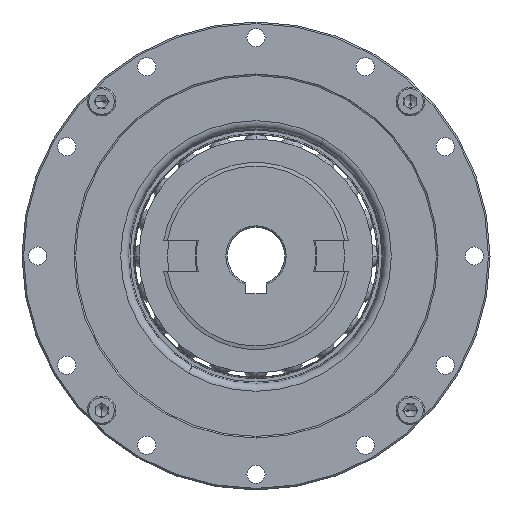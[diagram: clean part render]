
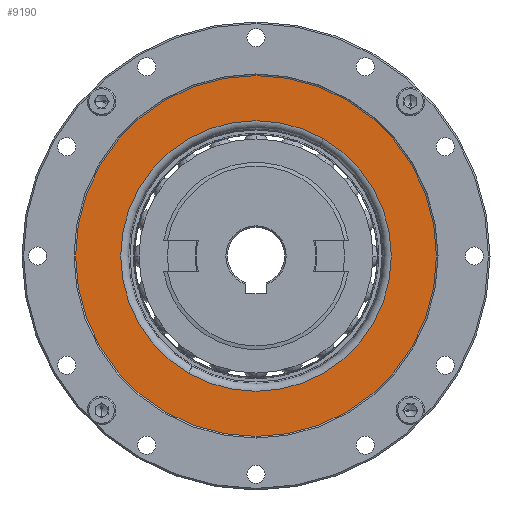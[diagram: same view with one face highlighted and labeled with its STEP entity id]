
A CAD part, front view. The second image highlights one B-rep face of the part: STEP entity #9190.
In plain terms, the highlighted planar face has unit normal (0, -1, 0).
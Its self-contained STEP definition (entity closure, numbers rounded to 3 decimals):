
#46 = PLANE ( 'NONE',  #12488 ) ;
#710 = ORIENTED_EDGE ( 'NONE', *, *, #4519, .T. ) ;
#811 = CARTESIAN_POINT ( 'NONE',  ( -8.561, -14.652, 47.462 ) ) ;
#818 = CARTESIAN_POINT ( 'NONE',  ( 4.451, -14.652, 70. ) ) ;
#836 = DIRECTION ( 'NONE',  ( 0., 1., 0. ) ) ;
#884 = DIRECTION ( 'NONE',  ( -0.5, 0., -0.866 ) ) ;
#936 = CARTESIAN_POINT ( 'NONE',  ( 4.451, -14.652, 70. ) ) ;
#979 = DIRECTION ( 'NONE',  ( 0., -1., 0. ) ) ;
#1072 = DIRECTION ( 'NONE',  ( -0.5, 0., -0.866 ) ) ;
#1483 = VERTEX_POINT ( 'NONE', #5857 ) ;
#2527 = AXIS2_PLACEMENT_3D ( 'NONE', #11634, #7465, #10762 ) ;
#2598 = CARTESIAN_POINT ( 'NONE',  ( 4.451, -14.652, 70. ) ) ;
#2632 = DIRECTION ( 'NONE',  ( 0., -1., 0. ) ) ;
#2667 = DIRECTION ( 'NONE',  ( -0.5, 0., -0.866 ) ) ;
#2907 = EDGE_LOOP ( 'NONE', ( #6790, #12438 ) ) ;
#3497 = CIRCLE ( 'NONE', #5778, 34.7 ) ;
#4118 = VERTEX_POINT ( 'NONE', #11891 ) ;
#4295 = EDGE_LOOP ( 'NONE', ( #9510, #710 ) ) ;
#4360 = FACE_BOUND ( 'NONE', #2907, .T. ) ;
#4458 = CARTESIAN_POINT ( 'NONE',  ( 4.451, -14.652, 70. ) ) ;
#4519 = EDGE_CURVE ( 'NONE', #4118, #10724, #3497, .T. ) ;
#5201 = AXIS2_PLACEMENT_3D ( 'NONE', #818, #836, #884 ) ;
#5369 = CIRCLE ( 'NONE', #5201, 26.025 ) ;
#5778 = AXIS2_PLACEMENT_3D ( 'NONE', #936, #979, #1072 ) ;
#5857 = CARTESIAN_POINT ( 'NONE',  ( 17.464, -14.652, 92.538 ) ) ;
#6044 = CARTESIAN_POINT ( 'NONE',  ( -12.899, -14.652, 39.949 ) ) ;
#6790 = ORIENTED_EDGE ( 'NONE', *, *, #9117, .T. ) ;
#7465 = DIRECTION ( 'NONE',  ( 0., -1., 0. ) ) ;
#7584 = CIRCLE ( 'NONE', #9622, 26.025 ) ;
#7605 = CIRCLE ( 'NONE', #2527, 34.7 ) ;
#9117 = EDGE_CURVE ( 'NONE', #13299, #1483, #5369, .T. ) ;
#9190 = ADVANCED_FACE ( 'NONE', ( #9794, #4360 ), #46, .T. ) ;
#9510 = ORIENTED_EDGE ( 'NONE', *, *, #11159, .T. ) ;
#9622 = AXIS2_PLACEMENT_3D ( 'NONE', #4458, #13129, #11173 ) ;
#9794 = FACE_OUTER_BOUND ( 'NONE', #4295, .T. ) ;
#10724 = VERTEX_POINT ( 'NONE', #6044 ) ;
#10762 = DIRECTION ( 'NONE',  ( -0.5, 0., -0.866 ) ) ;
#10871 = EDGE_CURVE ( 'NONE', #1483, #13299, #7584, .T. ) ;
#11159 = EDGE_CURVE ( 'NONE', #10724, #4118, #7605, .T. ) ;
#11173 = DIRECTION ( 'NONE',  ( -0.5, 0., -0.866 ) ) ;
#11634 = CARTESIAN_POINT ( 'NONE',  ( 4.451, -14.652, 70. ) ) ;
#11891 = CARTESIAN_POINT ( 'NONE',  ( 21.801, -14.652, 100.051 ) ) ;
#12438 = ORIENTED_EDGE ( 'NONE', *, *, #10871, .T. ) ;
#12488 = AXIS2_PLACEMENT_3D ( 'NONE', #2598, #2632, #2667 ) ;
#13129 = DIRECTION ( 'NONE',  ( 0., 1., 0. ) ) ;
#13299 = VERTEX_POINT ( 'NONE', #811 ) ;
